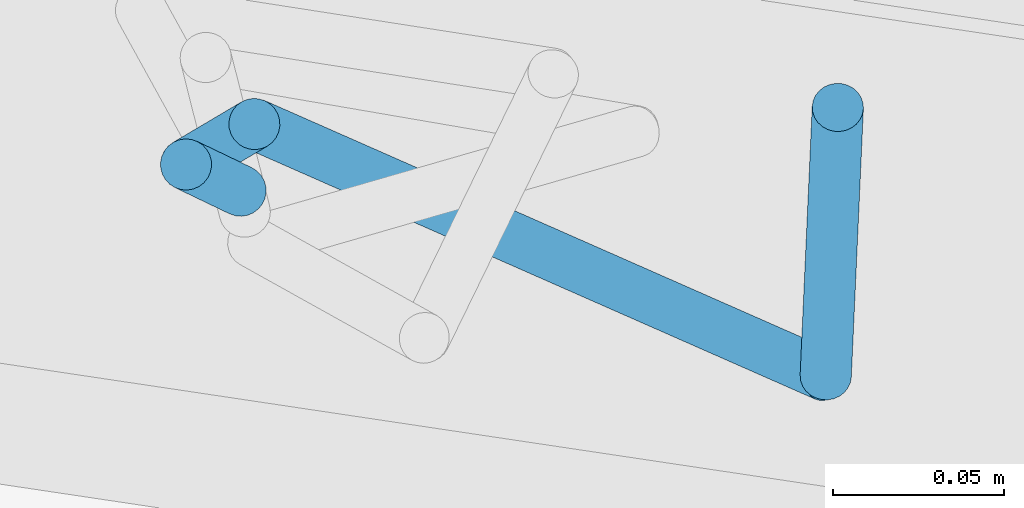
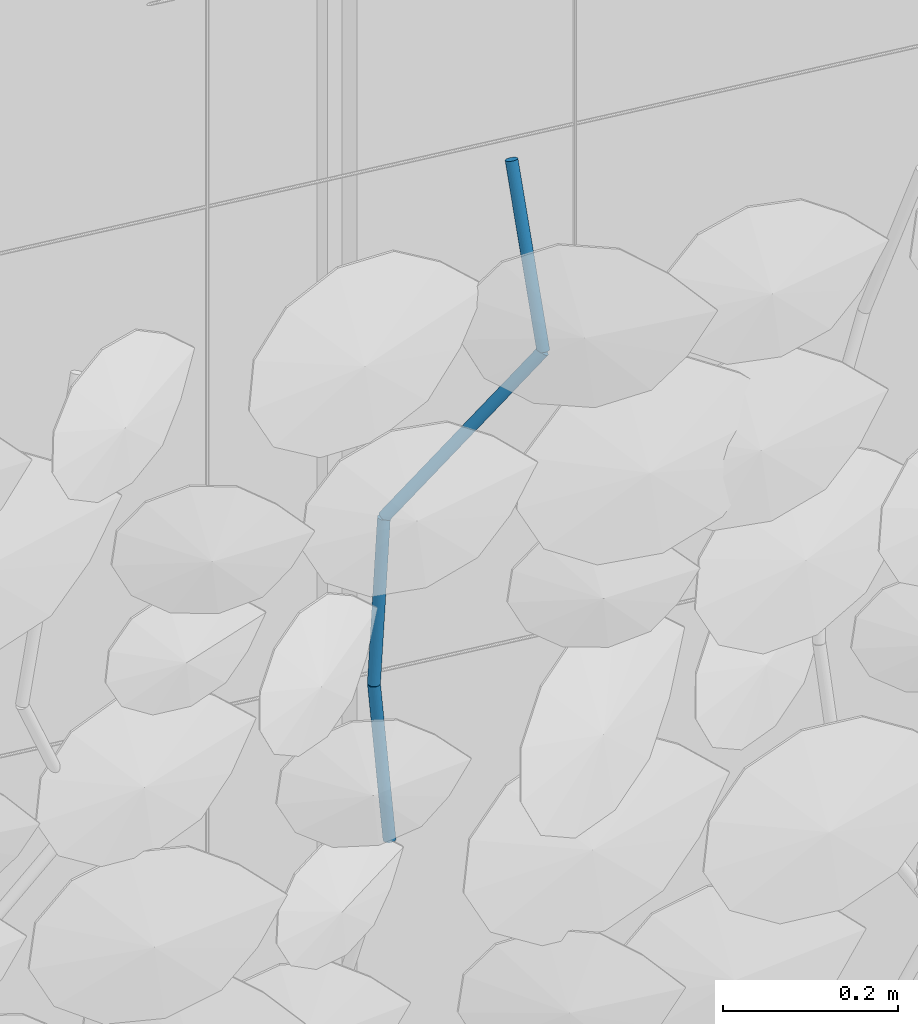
# One storey, part 111 of 128: 4 members, 1 element without a shape of its own.
"""IFC4 building model written with IfcOpenShell, lengths in metres."""

from ifc_helpers import new_model, si_unit, direction, frame, origin_with_axes, place, context, subcontext, project, spatial, circle, extrude, material, material_profile, profile_set, profile_usage, type_object, element, aggregate, save


model = new_model("IFC4")

# Units and contexts
model_context = context("Model", 3, precision=1e-05, world=origin_with_axes(), true_north=direction((0.0, 1.0)))
body_context = subcontext(model_context, "Body", "Model", "MODEL_VIEW")
ifc_project = project(units=[si_unit("VOLUMEUNIT", "CUBIC_METRE"), si_unit("LENGTHUNIT", "METRE"), si_unit("AREAUNIT", "SQUARE_METRE")], contexts=[model_context])

# Site, building, storey
site_placement = place(None, origin_with_axes())
site = spatial("IfcSite", under=ifc_project, at=site_placement, Name="Lares · Rua das Mercês · artigo 4771")
building_placement = place(site_placement, frame((15.0, 9.7, 13.9), z_axis=(0.0, 0.0, 1.0), x_axis=(0.989015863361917, -0.147809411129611, 0.0)))
building = spatial("IfcBuilding", under=site, at=building_placement, Name="Casa Sobreposta")
storey_placement = place(building_placement, origin_with_axes())
storey = spatial("IfcBuildingStorey", under=building, at=storey_placement, Name="00 · Habitação e estacionamento", Elevation=13.9)

# Assembly, members
assembly_placement = place(storey_placement, origin_with_axes())
assembly = element("IfcElementAssembly", 1, at=assembly_placement, inside=storey, Name="Fachada sul e pátio · estrutura e trepadeiras", ObjectType="LIVING_SHADE_TRELLIS", PredefinedType="USERDEFINED")
ifc_material = material(Name="Ramos de trepadeiras", Category="wood")
ifc_material_profile = material_profile(ifc_material, circle(Radius=0.0075))
ifc_profile_set = profile_set([ifc_material_profile], Name="D0.015")
ifc_profile_usage_1 = profile_usage(ifc_profile_set)
member_type = type_object("IfcMemberType", Name="D0.015 / vine_wood", PredefinedType="NOTDEFINED", material=ifc_profile_set)
member_1_placement = place(assembly_placement, frame((17.5916188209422, -1.68966029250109, 1.87253742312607), z_axis=(-0.0775005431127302, 0.0239215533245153, 0.99670528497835), x_axis=(0.294933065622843, 0.955517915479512, 0.0)))
member_1 = element("IfcMember", 2, at=member_1_placement, type_object=member_type, material=ifc_profile_usage_1, Name="Trepadeiras · ramo", context=body_context, shape_type="SweptSolid", body=[
    extrude(circle(Radius=0.0075), origin_with_axes(), (0.0, 0.0, 1.0), 0.218224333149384),
])
ifc_profile_usage_2 = profile_usage(ifc_profile_set)
member_2_placement = place(assembly_placement, frame((17.5747063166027, -1.68444002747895, 2.09004276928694), z_axis=(0.0824483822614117, 0.0670622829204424, 0.994336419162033), x_axis=(0.631006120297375, -0.775777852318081, 0.0)))
member_2 = element("IfcMember", 3, at=member_2_placement, type_object=member_type, material=ifc_profile_usage_2, Name="Trepadeiras · ramo", context=body_context, shape_type="SweptSolid", body=[
    extrude(circle(Radius=0.0075), origin_with_axes(), (0.0, 0.0, 1.0), 0.21874422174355),
])
ifc_profile_usage_3 = profile_usage(ifc_profile_set)
member_3_placement = place(assembly_placement, frame((17.5927414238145, -1.66977054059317, 2.30754811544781), z_axis=(0.620510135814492, -0.169558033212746, 0.76564825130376), x_axis=(-0.263591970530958, -0.964634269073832, 0.0)))
member_3 = element("IfcMember", 4, at=member_3_placement, type_object=member_type, material=ifc_profile_usage_3, Name="Trepadeiras · ramo", context=body_context, shape_type="SweptSolid", body=[
    extrude(circle(Radius=0.0075), origin_with_axes(), (0.0, 0.0, 1.0), 0.284079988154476),
])
ifc_profile_usage_4 = profile_usage(ifc_profile_set)
member_4_placement = place(assembly_placement, frame((17.7690159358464, -1.71793858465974, 2.52505346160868), z_axis=(-0.0350497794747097, 0.338152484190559, 0.940438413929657), x_axis=(0.99467115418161, 0.103098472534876, 0.0)))
member_4 = element("IfcMember", 5, at=member_4_placement, type_object=member_type, material=ifc_profile_usage_4, Name="Trepadeiras · ramo", context=body_context, shape_type="SweptSolid", body=[
    extrude(circle(Radius=0.0075), origin_with_axes(), (0.0, 0.0, 1.0), 0.231280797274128),
])
aggregate(assembly, [member_1, member_2, member_3, member_4])

save(model, "model.ifc")
